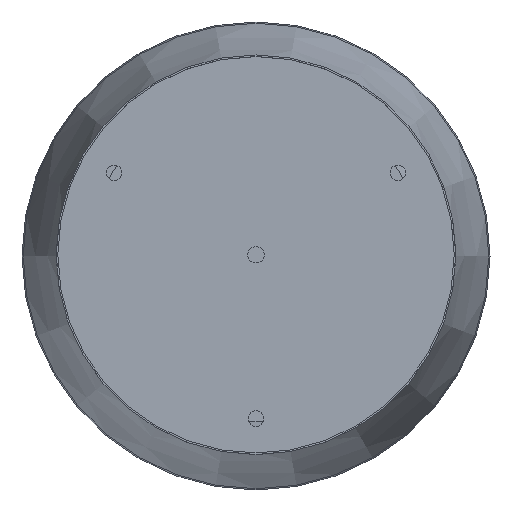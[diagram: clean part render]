
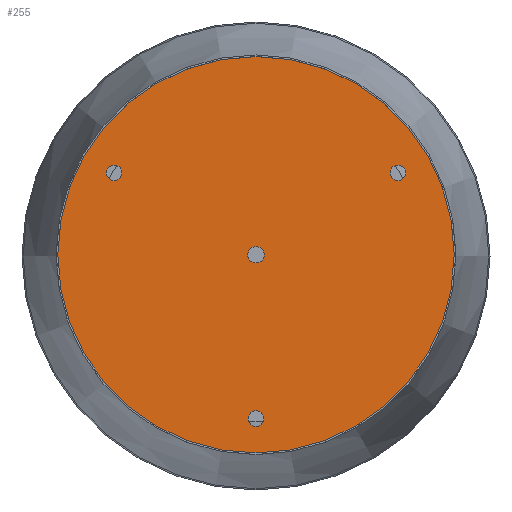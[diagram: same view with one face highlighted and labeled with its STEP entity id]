
A CAD part, top view. The second image highlights one B-rep face of the part: STEP entity #255.
In plain terms, the highlighted planar face has unit normal (0, 0, 1) as drawn and (0, 1, 0) by its records, which use the part's own axes.
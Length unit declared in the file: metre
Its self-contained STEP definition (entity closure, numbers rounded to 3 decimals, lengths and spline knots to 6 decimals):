
#255 = ADVANCED_FACE( '', ( #363, #364, #365, #366, #367 ), #368, .T. );
#363 = FACE_BOUND( '', #496, .T. );
#364 = FACE_BOUND( '', #497, .T. );
#365 = FACE_BOUND( '', #498, .T. );
#366 = FACE_BOUND( '', #499, .T. );
#367 = FACE_OUTER_BOUND( '', #500, .T. );
#368 = PLANE( '', #501 );
#496 = EDGE_LOOP( '', ( #739 ) );
#497 = EDGE_LOOP( '', ( #740 ) );
#498 = EDGE_LOOP( '', ( #741 ) );
#499 = EDGE_LOOP( '', ( #742 ) );
#500 = EDGE_LOOP( '', ( #743 ) );
#501 = AXIS2_PLACEMENT_3D( '', #744, #745, #746 );
#739 = ORIENTED_EDGE( '', *, *, #907, .F. );
#740 = ORIENTED_EDGE( '', *, *, #908, .F. );
#741 = ORIENTED_EDGE( '', *, *, #909, .F. );
#742 = ORIENTED_EDGE( '', *, *, #905, .F. );
#743 = ORIENTED_EDGE( '', *, *, #900, .T. );
#744 = CARTESIAN_POINT( '', ( 0., 0.001, 0. ) );
#745 = DIRECTION( '', ( 0., 1., 0. ) );
#746 = DIRECTION( '', ( 0., 0., 1. ) );
#900 = EDGE_CURVE( '', #1034, #1034, #1035, .T. );
#905 = EDGE_CURVE( '', #1043, #1043, #1044, .T. );
#907 = EDGE_CURVE( '', #1047, #1047, #1048, .T. );
#908 = EDGE_CURVE( '', #1049, #1049, #1050, .T. );
#909 = EDGE_CURVE( '', #1051, #1051, #1052, .T. );
#1034 = VERTEX_POINT( '', #1293 );
#1035 = CIRCLE( '', #1294, 0.127 );
#1043 = VERTEX_POINT( '', #1317 );
#1044 = CIRCLE( '', #1318, 0.00525 );
#1047 = VERTEX_POINT( '', #1321 );
#1048 = CIRCLE( '', #1322, 0.005 );
#1049 = VERTEX_POINT( '', #1323 );
#1050 = CIRCLE( '', #1324, 0.005 );
#1051 = VERTEX_POINT( '', #1325 );
#1052 = CIRCLE( '', #1326, 0.005 );
#1293 = CARTESIAN_POINT( '', ( 0., 0.001, 0.127 ) );
#1294 = AXIS2_PLACEMENT_3D( '', #1457, #1458, #1459 );
#1317 = CARTESIAN_POINT( '', ( 0., 0.001, 0.00525 ) );
#1318 = AXIS2_PLACEMENT_3D( '', #1464, #1465, #1466 );
#1321 = CARTESIAN_POINT( '', ( -0.105, 0.001, 0.005 ) );
#1322 = AXIS2_PLACEMENT_3D( '', #1470, #1471, #1472 );
#1323 = CARTESIAN_POINT( '', ( 0.0525, 0.001, -0.085933 ) );
#1324 = AXIS2_PLACEMENT_3D( '', #1473, #1474, #1475 );
#1325 = CARTESIAN_POINT( '', ( 0.0525, 0.001, 0.095933 ) );
#1326 = AXIS2_PLACEMENT_3D( '', #1476, #1477, #1478 );
#1457 = CARTESIAN_POINT( '', ( 0., 0.001, 0. ) );
#1458 = DIRECTION( '', ( 0., 1., 0. ) );
#1459 = DIRECTION( '', ( 0., 0., 1. ) );
#1464 = CARTESIAN_POINT( '', ( 0., 0.001, 0. ) );
#1465 = DIRECTION( '', ( 0., 1., 0. ) );
#1466 = DIRECTION( '', ( 0., 0., 1. ) );
#1470 = CARTESIAN_POINT( '', ( -0.105, 0.001, 0. ) );
#1471 = DIRECTION( '', ( 0., 1., 0. ) );
#1472 = DIRECTION( '', ( 0., 0., 1. ) );
#1473 = CARTESIAN_POINT( '', ( 0.0525, 0.001, -0.090933 ) );
#1474 = DIRECTION( '', ( 0., 1., 0. ) );
#1475 = DIRECTION( '', ( 0., 0., 1. ) );
#1476 = CARTESIAN_POINT( '', ( 0.0525, 0.001, 0.090933 ) );
#1477 = DIRECTION( '', ( 0., 1., 0. ) );
#1478 = DIRECTION( '', ( 0., 0., 1. ) );
